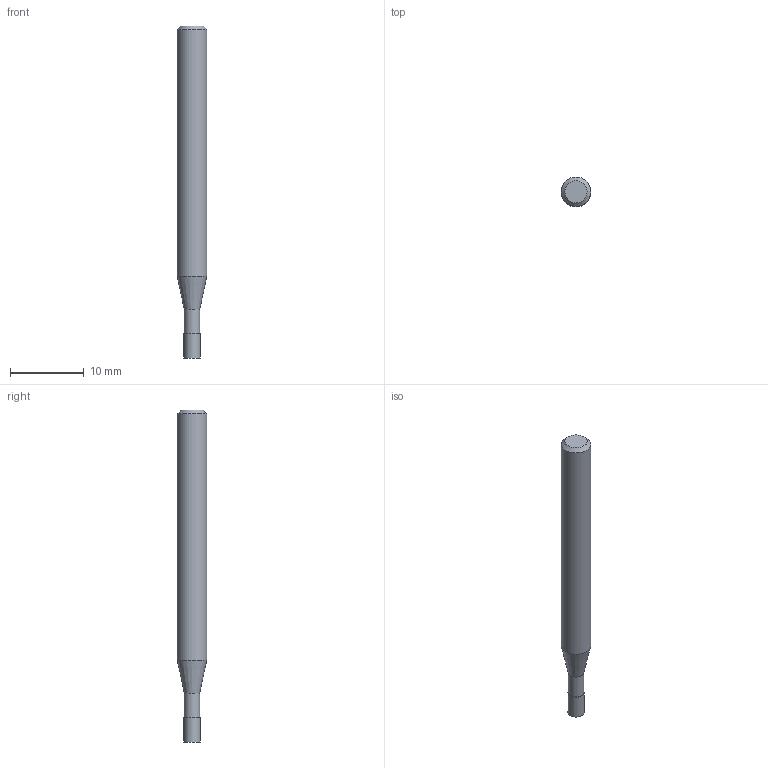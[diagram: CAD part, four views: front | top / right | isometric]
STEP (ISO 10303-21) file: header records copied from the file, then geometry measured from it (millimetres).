
FILE_DESCRIPTION((''),'2;1');
FILE_NAME('C:\Users\nsx150\AppData\Local\Temp\Mastercam 2021\EUJSUNXURU\TEMP.step','2021-04-22T10:27:47',(''),(''),'STEP Write','Mastercam 2021 ... CNC Software, Inc.','');
FILE_SCHEMA(('AUTOMOTIVE_DESIGN'));
Length unit declared in the file: millimetre
Products named in the file (1): None
Bounding box: 4 x 4 x 45 mm (x, y, z)
Volume: 482.6 mm3; surface area: 534.4 mm2
Topology: 2 solids, 2 shells, 9 faces, 12 edges, 7 vertices
Faces by surface type: plane 4, cylinder 3, cone 2
Full cylindrical faces by diameter (mm): 2.1 x1, 2.2 x1, 4 x1
Entity records: 211 total; most frequent: DIRECTION 36, CARTESIAN_POINT 25, AXIS2_PLACEMENT_3D 18, ORIENTED_EDGE 14, EDGE_LOOP 14, STYLED_ITEM 12, ADVANCED_FACE 9, FACE_BOUND 8
